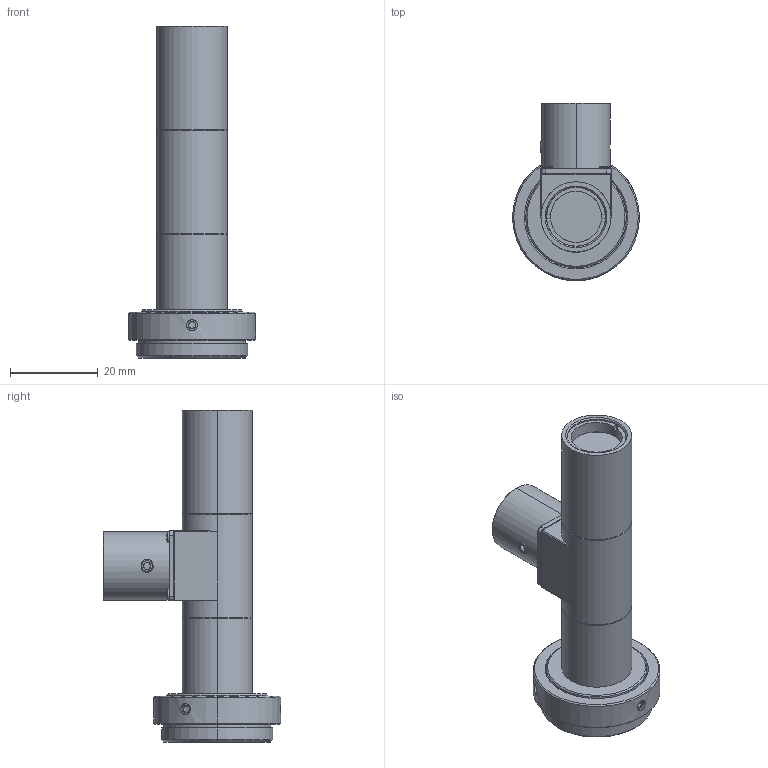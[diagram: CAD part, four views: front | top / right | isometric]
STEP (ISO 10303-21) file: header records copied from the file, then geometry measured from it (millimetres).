
FILE_DESCRIPTION (( 'STEP AP203' ), '1' );
FILE_NAME ('MML2-ST110DS_A03935A0100101A-001.STEP', '2013-12-12T01:31:56', ( 'SCHOTT' ), ( 'SCHOTT' ), 'SwSTEP 2.0', 'SolidWorks 2011', '' );
FILE_SCHEMA (( 'CONFIG_CONTROL_DESIGN' ));
Length unit declared in the file: millimetre
Products named in the file (1): MML2-ST110DS_A03935A0100101A-001
Bounding box: 29 x 40.5 x 75.8 mm (x, y, z)
Volume: 17968.9 mm3; surface area: 8476 mm2
Topology: 1 solids, 5 shells, 389 faces, 922 edges, 558 vertices
Faces by surface type: plane 169, cone 127, cylinder 69, torus 16, sphere 8
Entity records: 11749 total; most frequent: CARTESIAN_POINT 2819, DIRECTION 1922, ORIENTED_EDGE 1828, EDGE_CURVE 914, AXIS2_PLACEMENT_3D 803, VERTEX_POINT 558, EDGE_LOOP 422, CIRCLE 413
